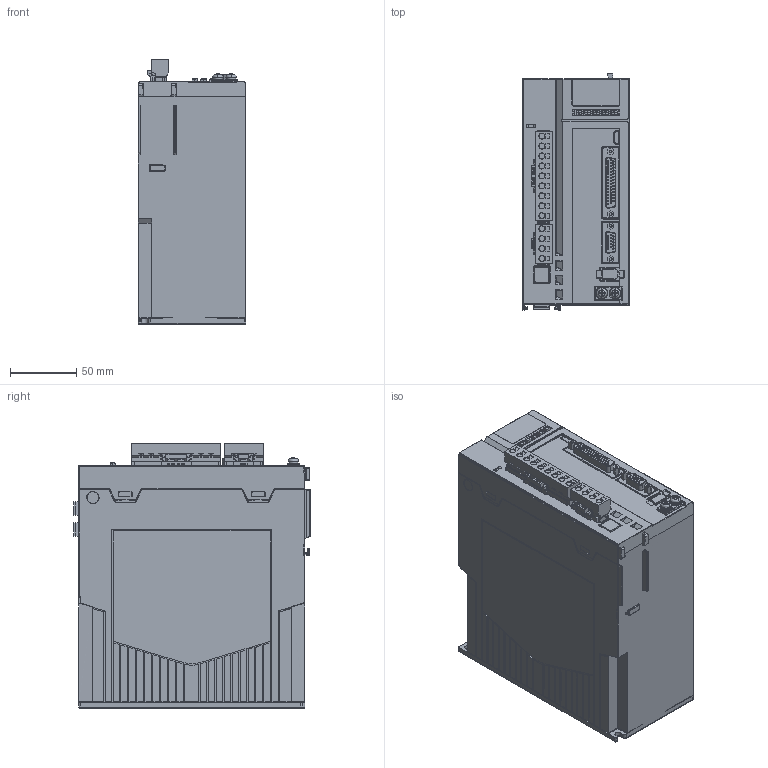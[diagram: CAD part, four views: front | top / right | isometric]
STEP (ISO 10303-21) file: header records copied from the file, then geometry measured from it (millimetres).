
FILE_DESCRIPTION((''),'2;1');
FILE_NAME('SV670P-SIZE-D_ASM_ASM','2022-09-23T',('l115853'),(''),'CREO PARAMETRIC BY PTC INC, 2015290','CREO PARAMETRIC BY PTC INC, 2015290','');
FILE_SCHEMA(('AUTOMOTIVE_DESIGN { 1 0 10303 214 1 1 1 1 }'));
Products named in the file (6): MSBR-5; MSBR-4; MSBR-3; MSBR-2; MSBR-1; SV670P-SIZE-D_ASM_ASM
Assembly tree (5 placements, depth 2):
  SV670P-SIZE-D_ASM_ASM
    MSBR-5
    MSBR-4
    MSBR-3
    MSBR-2
    MSBR-1
Bounding box: 81 x 177.7 x 199.2 mm (x, y, z)
Volume: 2492838.6 mm3; surface area: 159093.8 mm2
Topology: 5 solids, 6 shells, 3486 faces, 9230 edges, 5842 vertices
Faces by surface type: plane 2190, cylinder 839, bspline 150, extrusion 138, sphere 71, torus 56, cone 42
Entity records: 159075 total; most frequent: CARTESIAN_POINT 49477, ORIENTED_EDGE 18302, DIRECTION 16083, EDGE_CURVE 9151, VECTOR 6731, LINE 6593, VERTEX_POINT 5842, AXIS2_PLACEMENT_3D 4676
